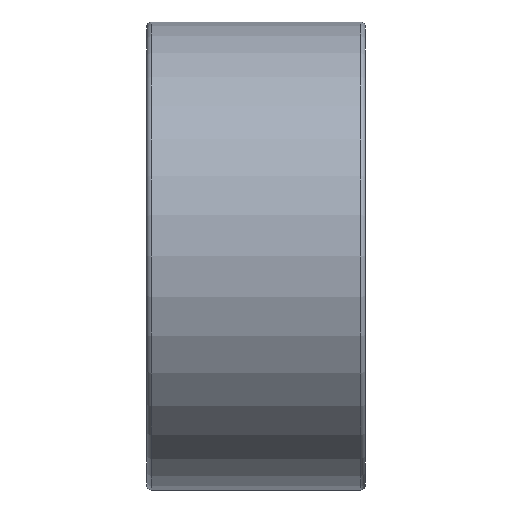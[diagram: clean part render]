
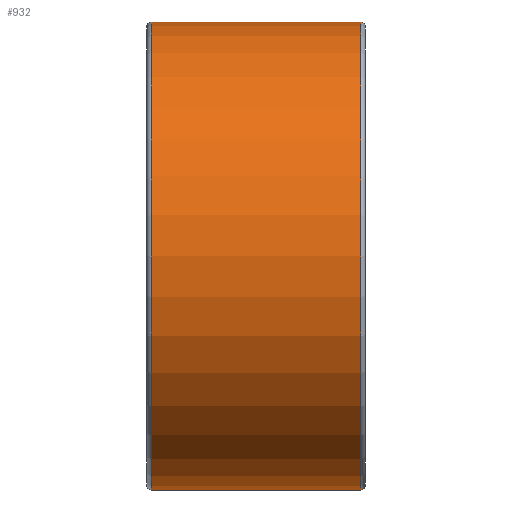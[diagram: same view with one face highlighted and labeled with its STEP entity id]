
A CAD part, front view. The second image highlights one B-rep face of the part: STEP entity #932.
In plain terms, the highlighted cylindrical face has radius 15 mm (diameter 30 mm), a full revolution.
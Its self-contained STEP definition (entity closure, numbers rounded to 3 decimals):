
#161=CYLINDRICAL_SURFACE($,#1086,15.);
#182=FACE_BOUND($,#315,.T.);
#243=FACE_OUTER_BOUND($,#314,.T.);
#314=EDGE_LOOP($,(#856));
#315=EDGE_LOOP($,(#857));
#415=CIRCLE($,#1084,15.);
#417=CIRCLE($,#1087,15.);
#505=VERTEX_POINT($,#2372);
#507=VERTEX_POINT($,#2377);
#626=EDGE_CURVE($,#505,#505,#415,.T.);
#628=EDGE_CURVE($,#507,#507,#417,.T.);
#856=ORIENTED_EDGE($,*,*,#628,.F.);
#857=ORIENTED_EDGE($,*,*,#626,.T.);
#932=ADVANCED_FACE($,(#243,#182),#161,.T.);
#1084=AXIS2_PLACEMENT_3D($,#2373,#1383,#1384);
#1086=AXIS2_PLACEMENT_3D($,#2376,#1387,#1388);
#1087=AXIS2_PLACEMENT_3D($,#2378,#1389,#1390);
#1383=DIRECTION('center_axis',(1.,0.,0.));
#1384=DIRECTION('ref_axis',(0.,0.,-1.));
#1387=DIRECTION('center_axis',(1.,0.,0.));
#1388=DIRECTION('ref_axis',(0.,1.,0.));
#1389=DIRECTION('center_axis',(1.,0.,0.));
#1390=DIRECTION('ref_axis',(0.,0.,-1.));
#2372=CARTESIAN_POINT('',(-6.7,15.,0.));
#2373=CARTESIAN_POINT('Origin',(-6.7,0.,0.));
#2376=CARTESIAN_POINT('Origin',(0.,0.,0.));
#2377=CARTESIAN_POINT('',(6.7,15.,0.));
#2378=CARTESIAN_POINT('Origin',(6.7,0.,0.));
